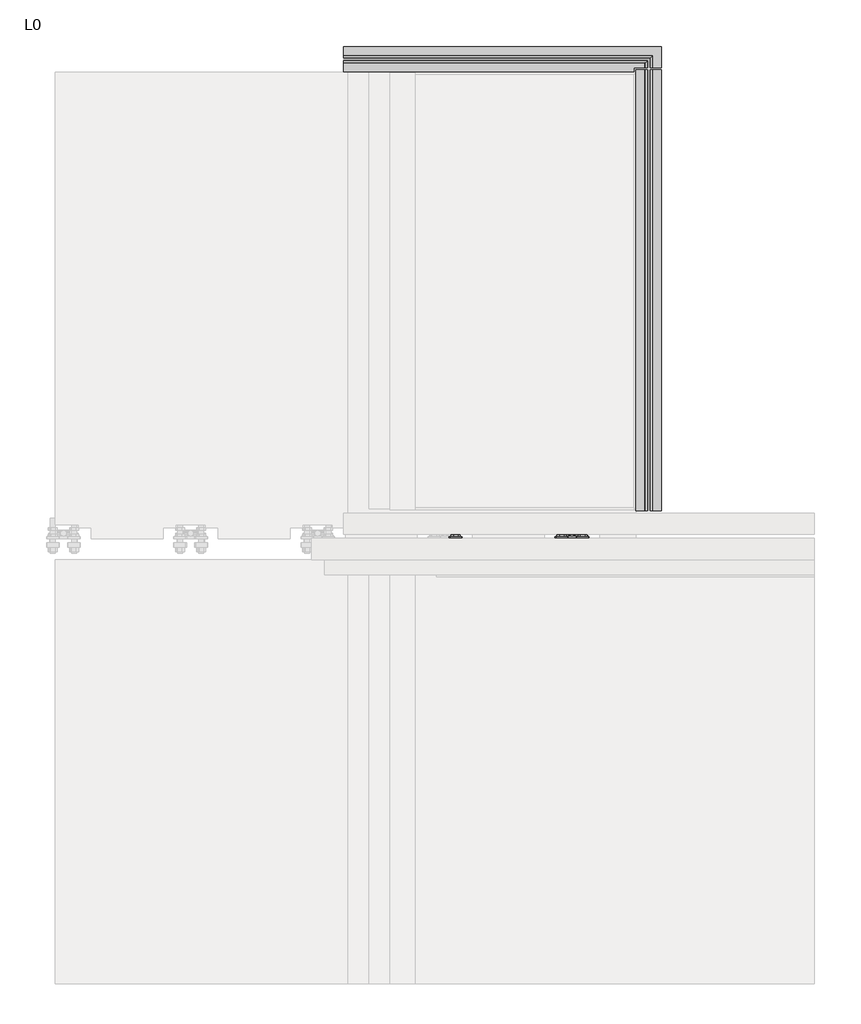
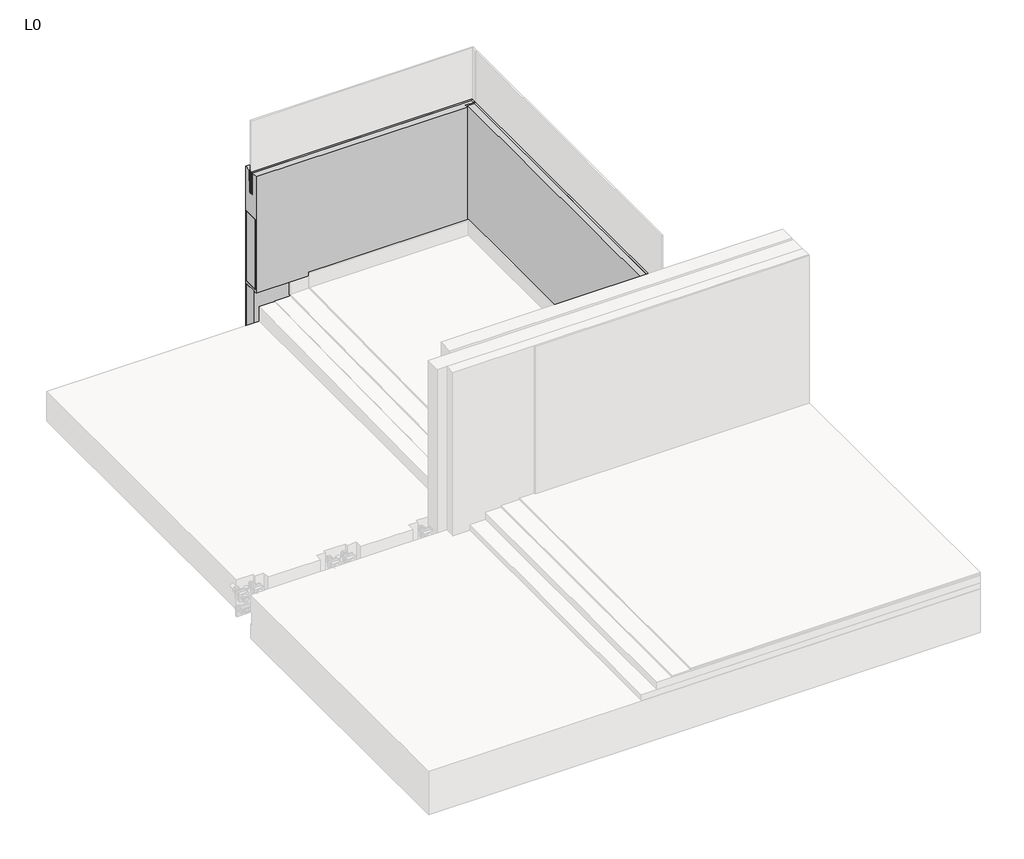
# One storey, part 2 of 2: 59 fasteners, 4 proxies.
"""IFC4 building model written with IfcOpenShell, lengths in millimetres."""

from ifc_helpers import new_model, si_unit, frame, origin, place, context, project, spatial, polyline, circle_curve, faceted_brep, transform, mapped, element, save
from ifc_brep_helpers import plane_surface, revolved_surface, advanced_brep
from components import generic_models_ea33af44, sellado_sellado_c16e03ff, fastener_4b0fadc4, fastener_2a2ea2da, fastener_e2884140, fastener_89f2e246, fastener_81d81b55, fastener_40bc8d22, fastener_24ae0f83, fastener_6d48f5d1, fastener_fd3466ae, fastener_020a80a8, rec_aem12_100_aem12_100_46347e7a, rec_aem12_140_aem12_140_dcbebcd7, rec_cpa448t17_cpa448t17_96b728d6, rec_m16_45_m16_45_58386a80, rec_m16_60_m16_60_dda11d1f, rec_m20_60_m20_60_f3bef540, rec_paa150708t14_paa150708t14_abbbcd53, rec_ph4022_ph4022_520e7247, rec_tph1250_tph1250_56b32e52, rec_p5067_rec_p5067_4c9f34e2, rec_p5068_rec_p5068_d82b0db2

model = new_model("IFC4")

# Units and contexts
model_context = context("Model", 3, world=origin())
ifc_project = project(units=[si_unit("LENGTHUNIT", "METRE", prefix="MILLI")], contexts=[model_context])

# Site, building, storey
site = spatial("IfcSite", under=ifc_project)
building = spatial("IfcBuilding", under=site)
storey = spatial("IfcBuildingStorey", under=building, Name="L0", Elevation=0.0)

# Proxies
placement = place(None, origin())
element("IfcBuildingElementProxy", 1, Name="Panel Hormigón 2 : Panel Hormigón", ObjectType="Panel Hormigón 2 : Panel Hormigón", at=placement, inside=storey, context=model_context, shape_type="SolidModel", body=[
    advanced_brep(
    [(6507.7202663, 17024.5302953, 200.0), (6507.7202663, 17104.5302953, 200.0), (6507.7202663, 17104.5302953, -490.0), (6507.7202663, 17024.5302953, -490.0), (7621.6499335, 17024.5302953, 200.0), (7621.6499335, 17024.5302953, -490.0), (7621.6499335, 17104.5302953, -490.0), (7621.6499335, 17104.5302953, 200.0), (7387.5702663, 17024.5302953, -170.0), (7427.8702663, 17024.5302953, -170.0), (7427.8702663, 17024.5302953, -320.0), (7387.5702663, 17024.5302953, -320.0), (7418.7202663, 17024.5302953, 72.0), (7396.7202663, 17024.5302953, 72.0), (7387.5702663, 17036.6051011, -170.0), (7427.8702663, 17036.6051011, -170.0), (7427.8702663, 17036.6051011, -320.0), (7387.5702663, 17036.6051011, -320.0), (7396.7202663, 17059.5302953, 72.0), (7418.7202663, 17059.5302953, 72.0)],
    [
        (0, 1),
        (1, 2),
        (2, 3),
        (3, 0),
        (4, 5),
        (5, 6),
        (6, 7),
        (7, 4),
        (0, 4),
        (7, 1),
        (6, 2),
        (5, 3),
        (8, 9),
        (9, 10),
        (10, 11),
        (11, 8),
        (12, 13, circle_curve(frame((7407.7202663, 17024.5302953, 72.0), z_axis=(0.0, 1.0, 0.0), x_axis=(1.0, 0.0, 0.0)), 11.0)),
        (13, 12, circle_curve(frame((7407.7202663, 17024.5302953, 72.0), z_axis=(0.0, 1.0, 0.0), x_axis=(1.0, 0.0, 0.0)), 11.0)),
        (14, 15),
        (15, 9),
        (8, 14),
        (16, 17),
        (17, 11),
        (10, 16),
        (17, 14),
        (15, 16),
        (18, 19, circle_curve(frame((7407.7202663, 17059.5302953, 72.0), z_axis=(0.0, -1.0, 0.0), x_axis=(1.0, 0.0, 0.0)), 11.0)),
        (19, 18, circle_curve(frame((7407.7202663, 17059.5302953, 72.0), z_axis=(0.0, -1.0, 0.0), x_axis=(1.0, 0.0, 0.0)), 11.0)),
        (18, 13),
        (12, 19),
    ],
    [
        plane_surface(frame((6507.7202663, 17010.3209466, 200.0), z_axis=(-1.0, 0.0, 0.0), x_axis=(0.0, 1.0, 0.0))),
        plane_surface(frame((7621.6499335, 17010.3209466, 200.0), z_axis=(1.0, 0.0, 0.0), x_axis=(0.0, -1.0, 0.0))),
        plane_surface(frame((6507.7202663, 17024.5302953, 200.0), z_axis=(0.0, 0.0, 1.0), x_axis=(1.0, 0.0, 0.0))),
        plane_surface(frame((6507.7202663, 17104.5302953, 200.0), z_axis=(0.0, 1.0, 0.0), x_axis=(1.0, 0.0, 0.0))),
        plane_surface(frame((6507.7202663, 17104.5302953, -490.0), z_axis=(0.0, 0.0, -1.0), x_axis=(1.0, 0.0, 0.0))),
        plane_surface(frame((6507.7202663, 17024.5302953, -490.0), z_axis=(0.0, -1.0, 0.0), x_axis=(1.0, 0.0, 0.0))),
        plane_surface(frame((7387.5702663, 17031.6051011, -170.0), z_axis=(0.0, 0.0, -1.0), x_axis=(0.0, -1.0, 0.0))),
        plane_surface(frame((7387.5702663, 17031.6051011, -320.0), z_axis=(0.0, 0.0, 1.0), x_axis=(0.0, 1.0, 0.0))),
        plane_surface(frame((7387.5702663, 17036.6051011, -170.0), z_axis=(1.0, 0.0, 0.0), x_axis=(0.0, 0.0, -1.0))),
        plane_surface(frame((7427.8702663, 17014.6051011, -170.0), z_axis=(-1.0, 0.0, 0.0), x_axis=(0.0, 0.0, -1.0))),
        plane_surface(frame((7427.8702663, 17036.6051011, -170.0), z_axis=(0.0, -1.0, 0.0), x_axis=(0.0, 0.0, -1.0))),
        plane_surface(frame((7418.7202663, 17059.5302953, 72.0), z_axis=(0.0, -1.0, 0.0), x_axis=(0.0, 0.0, -1.0))),
        revolved_surface(polyline([(7418.7202663, 17024.5302953, 72.0), (7418.7202663, 17059.5302953, 72.0)]), (7407.7202663, 17059.5302953, 72.0), (0.0, -1.0, 0.0)),
    ],
    [
        (0, [[1, 2, 3, 4]]),
        (1, [[5, 6, 7, 8]]),
        (2, [[-1, 9, -8, 10]]),
        (3, [[-2, -10, -7, 11]]),
        (4, [[-3, -11, -6, 12]]),
        (5, [[-4, -12, -5, -9], [13, 14, 15, 16], [17, 18]]),
        (6, [[19, 20, -13, 21]]),
        (7, [[22, 23, -15, 24]]),
        (8, [[25, -21, -16, -23]]),
        (9, [[26, -24, -14, -20]]),
        (10, [[-19, -25, -22, -26]]),
        (11, [[27, 28]]),
        (12, [[-27, 29, -17, 30]]),
        (12, [[-28, -30, -18, -29]]),
    ],
),
    faceted_brep([(6507.7202663, 17104.5302953, 220.0), (6507.7202663, 17004.5302953, 220.0), (6507.7202663, 17004.5302953, 700.5448581), (6507.7202663, 17104.5302953, 700.5448581), (7621.6499335, 17104.5302953, 220.0), (7621.6499335, 17104.5302953, 700.5448581), (7621.6499335, 17004.5302953, 700.5448581), (7621.6499335, 17004.5302953, 220.0)], [[[0, 1, 2, 3]], [[4, 5, 6, 7]], [[1, 0, 4, 7]], [[2, 1, 7, 6]], [[3, 2, 6, 5]], [[0, 3, 5, 4]]]),
    advanced_brep(
    [(8007.7202663, 17114.5302953, 1000.0), (6507.7202663, 17114.5302953, 1000.0), (6507.7202663, 17072.0302953, 1000.0), (7965.2202663, 17072.0302953, 1000.0), (7965.2202663, 17014.5302953, 1000.0), (8007.7202663, 17014.5302953, 1000.0), (6507.7202663, 17037.0302953, 1000.0), (6507.7202663, 16994.5302953, 1000.0), (7877.7202663, 16994.5302953, 1000.0), (7877.7202663, 17014.5302953, 1000.0), (7930.2202663, 17014.5302953, 1000.0), (7930.2202663, 17037.0302953, 1000.0), (6507.7202663, 17114.5302953, -500.0), (8007.7202663, 17114.5302953, -500.0), (8007.7202663, 17014.5302953, -500.0), (6507.7202663, 17014.5302953, -500.0), (6507.7202663, 17014.5302953, 200.0), (6507.7202663, 16994.5302953, 200.0), (6507.7202663, 17039.5302953, 850.0), (6507.7202663, 17069.5302953, 850.0), (6507.7202663, 17104.5302953, 200.0), (6507.7202663, 17024.5302953, 200.0), (6507.7202663, 17024.5302953, -490.0), (6507.7202663, 17104.5302953, -490.0), (6507.7202663, 17004.5302953, 220.0), (6507.7202663, 17104.5302953, 220.0), (6507.7202663, 17104.5302953, 700.5448581), (6507.7202663, 17004.5302953, 700.5448581), (7877.7202663, 16994.5302953, 200.0), (7877.7202663, 17014.5302953, 200.0), (7962.7202663, 17014.5302953, 850.0), (7932.7202663, 17014.5302953, 850.0), (7387.5702663, 17014.5302953, -170.0), (7427.8702663, 17014.5302953, -170.0), (7427.8702663, 17014.5302953, -320.0), (7387.5702663, 17014.5302953, -320.0), (7418.7202663, 17014.5302953, 72.0), (7396.7202663, 17014.5302953, 72.0), (7387.5702663, 17024.5302953, -170.0), (7427.8702663, 17024.5302953, -170.0), (7427.8702663, 17024.5302953, -320.0), (7387.5702663, 17024.5302953, -320.0), (7396.7202663, 17024.5302953, 72.0), (7418.7202663, 17024.5302953, 72.0), (7962.7202663, 17069.5302953, 850.0), (7932.7202663, 17039.5302953, 850.0), (7621.6499335, 17024.5302953, 200.0), (7621.6499335, 17104.5302953, 200.0), (7621.6499335, 17104.5302953, -490.0), (7621.6499335, 17024.5302953, -490.0), (7621.6499335, 17104.5302953, 220.0), (7621.6499335, 17004.5302953, 220.0), (7621.6499335, 17004.5302953, 700.5448581), (7621.6499335, 17104.5302953, 700.5448581)],
    [
        (0, 1),
        (1, 2),
        (2, 3),
        (3, 4),
        (4, 5),
        (5, 0),
        (6, 7),
        (7, 8),
        (8, 9),
        (9, 10),
        (10, 11),
        (11, 6),
        (12, 13),
        (13, 14),
        (14, 15),
        (15, 12),
        (1, 12),
        (15, 16),
        (16, 17),
        (17, 7),
        (6, 18),
        (18, 19),
        (19, 2),
        (20, 21),
        (21, 22),
        (22, 23),
        (23, 20),
        (24, 25),
        (25, 26),
        (26, 27),
        (27, 24),
        (17, 28),
        (28, 8),
        (13, 0),
        (5, 14),
        (16, 29),
        (29, 28),
        (4, 30),
        (30, 31),
        (31, 10),
        (9, 29),
        (32, 33),
        (33, 34),
        (34, 35),
        (35, 32),
        (36, 37, circle_curve(frame((7407.7202663, 17014.5302953, 72.0), z_axis=(0.0, 1.0, 0.0), x_axis=(1.0, 0.0, 0.0)), 11.0)),
        (37, 36, circle_curve(frame((7407.7202663, 17014.5302953, 72.0), z_axis=(0.0, 1.0, 0.0), x_axis=(1.0, 0.0, 0.0)), 11.0)),
        (32, 38),
        (38, 39),
        (39, 33),
        (34, 40),
        (40, 41),
        (41, 35),
        (41, 38),
        (39, 40),
        (42, 37),
        (36, 43),
        (43, 42, circle_curve(frame((7407.7202663, 17024.5302953, 72.0), z_axis=(0.0, 1.0, 0.0), x_axis=(1.0, 0.0, 0.0)), 11.0)),
        (42, 43, circle_curve(frame((7407.7202663, 17024.5302953, 72.0), z_axis=(0.0, 1.0, 0.0), x_axis=(1.0, 0.0, 0.0)), 11.0)),
        (3, 44),
        (44, 30),
        (31, 45),
        (45, 11),
        (18, 45),
        (44, 19),
        (46, 47),
        (47, 48),
        (48, 49),
        (49, 46),
        (50, 51),
        (51, 52),
        (52, 53),
        (53, 50),
        (20, 47),
        (46, 21),
        (23, 48),
        (22, 49),
        (24, 51),
        (50, 25),
        (27, 52),
        (26, 53),
    ],
    [
        plane_surface(frame((6507.7202663, 17114.5302953, 1000.0), z_axis=(0.0, 0.0, 1.0), x_axis=(0.0, -1.0, 0.0))),
        plane_surface(frame((6507.7202663, 17114.5302953, -500.0), z_axis=(0.0, 0.0, -1.0), x_axis=(0.0, 1.0, 0.0))),
        plane_surface(frame((6507.7202663, 17114.5302953, 1000.0), z_axis=(-1.0, 0.0, 0.0), x_axis=(0.0, 0.0, -1.0))),
        plane_surface(frame((6507.7202663, 16994.5302953, 1000.0), z_axis=(0.0, -1.0, 0.0), x_axis=(0.0, 0.0, -1.0))),
        plane_surface(frame((8007.7202663, 16994.5302953, 1000.0), z_axis=(1.0, 0.0, 0.0), x_axis=(0.0, 0.0, -1.0))),
        plane_surface(frame((8007.7202663, 17114.5302953, 1000.0), z_axis=(0.0, 1.0, 0.0), x_axis=(0.0, 0.0, -1.0))),
        plane_surface(frame((6507.7202663, 16994.5302953, 200.0), z_axis=(0.0, 0.0, -1.0), x_axis=(1.0, 0.0, 0.0))),
        plane_surface(frame((6507.7202663, 17014.5302953, 200.0), z_axis=(0.0, -1.0, 0.0), x_axis=(1.0, 0.0, 0.0))),
        plane_surface(frame((7387.5702663, 17031.6051011, -170.0), z_axis=(0.0, 0.0, -1.0), x_axis=(0.0, -1.0, 0.0))),
        plane_surface(frame((7387.5702663, 17031.6051011, -320.0), z_axis=(0.0, 0.0, 1.0), x_axis=(0.0, 1.0, 0.0))),
        plane_surface(frame((7387.5702663, 17036.6051011, -170.0), z_axis=(1.0, 0.0, 0.0), x_axis=(0.0, 0.0, -1.0))),
        plane_surface(frame((7427.8702663, 17014.6051011, -170.0), z_axis=(-1.0, 0.0, 0.0), x_axis=(0.0, 0.0, -1.0))),
        revolved_surface(polyline([(7418.7202663, 17014.5302953, 72.0), (7418.7202663, 17024.5302953, 72.0)]), (7407.7202663, 17059.5302953, 72.0), (0.0, -1.0, 0.0)),
        plane_surface(frame((7962.7202663, 16994.5302953, 850.0), z_axis=(-0.9998611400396, 0.0, 0.016664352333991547), x_axis=(0.0, 1.0, 0.0))),
        plane_surface(frame((7930.2202663, 16994.5302953, 1000.0), z_axis=(0.9998611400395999, 0.0, 0.016664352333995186), x_axis=(0.0, 1.0, 0.0))),
        plane_surface(frame((7932.7202663, 16994.5302953, 850.0), z_axis=(0.0, 0.0, 1.0), x_axis=(0.0, 1.0, 0.0))),
        plane_surface(frame((7962.7202663, 17069.5302953, 850.0), z_axis=(0.0, -0.9998611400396, 0.01666435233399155), x_axis=(-1.0, 0.0, 0.0))),
        plane_surface(frame((7930.2202663, 17037.0302953, 1000.0), z_axis=(0.0, 0.9998611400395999, 0.01666435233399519), x_axis=(-1.0, 0.0, 0.0))),
        plane_surface(frame((7877.7202663, 17014.5302953, 1000.0), z_axis=(1.0, 0.0, 0.0), x_axis=(0.0, 0.0, -1.0))),
        plane_surface(frame((7621.6499335, 17010.3209466, 200.0), z_axis=(-1.0, 0.0, 0.0), x_axis=(0.0, -1.0, 0.0))),
        plane_surface(frame((6507.7202663, 17024.5302953, 200.0), z_axis=(0.0, 0.0, -1.0), x_axis=(1.0, 0.0, 0.0))),
        plane_surface(frame((6507.7202663, 17104.5302953, 200.0), z_axis=(0.0, -1.0, 0.0), x_axis=(1.0, 0.0, 0.0))),
        plane_surface(frame((6507.7202663, 17104.5302953, -490.0), z_axis=(0.0, 0.0, 1.0), x_axis=(1.0, 0.0, 0.0))),
        plane_surface(frame((6507.7202663, 17024.5302953, -490.0), z_axis=(0.0, 1.0, 0.0), x_axis=(1.0, 0.0, 0.0))),
        plane_surface(frame((6507.7202663, 17104.5302953, 220.0), z_axis=(0.0, 0.0, 1.0), x_axis=(1.0, 0.0, 0.0))),
        plane_surface(frame((6507.7202663, 17004.5302953, 220.0), z_axis=(0.0, 1.0, 0.0), x_axis=(1.0, 0.0, 0.0))),
        plane_surface(frame((6507.7202663, 17004.5302953, 700.5448581), z_axis=(0.0, 0.0, -1.0), x_axis=(1.0, 0.0, 0.0))),
        plane_surface(frame((6507.7202663, 17104.5302953, 700.5448581), z_axis=(0.0, -1.0, 0.0), x_axis=(1.0, 0.0, 0.0))),
    ],
    [
        (0, [[1, 2, 3, 4, 5, 6]]),
        (0, [[7, 8, 9, 10, 11, 12]]),
        (1, [[13, 14, 15, 16]]),
        (2, [[17, -16, 18, 19, 20, -7, 21, 22, 23, -2], [24, 25, 26, 27], [28, 29, 30, 31]]),
        (3, [[-20, 32, 33, -8]]),
        (4, [[34, -6, 35, -14]]),
        (5, [[-1, -34, -13, -17]]),
        (6, [[-19, 36, 37, -32]]),
        (7, [[-18, -15, -35, -5, 38, 39, 40, -10, 41, -36], [42, 43, 44, 45], [46, 47]]),
        (8, [[-42, 48, 49, 50]]),
        (9, [[-44, 51, 52, 53]]),
        (10, [[-45, -53, 54, -48]]),
        (11, [[-43, -50, 55, -51]]),
        (12, [[56, -46, 57, 58]]),
        (12, [[-56, 59, -57, -47]]),
        (13, [[-4, 60, 61, -38]]),
        (14, [[-11, -40, 62, 63]]),
        (15, [[-22, 64, -62, -39, -61, 65]]),
        (16, [[-3, -23, -65, -60]]),
        (17, [[-12, -63, -64, -21]]),
        (18, [[-9, -33, -37, -41]]),
        (19, [[66, 67, 68, 69]]),
        (19, [[70, 71, 72, 73]]),
        (20, [[-24, 74, -66, 75]]),
        (21, [[-27, 76, -67, -74]]),
        (22, [[-26, 77, -68, -76]]),
        (23, [[-25, -75, -69, -77], [-49, -54, -52, -55], [-58, -59]]),
        (24, [[-28, 78, -70, 79]]),
        (25, [[-31, 80, -71, -78]]),
        (26, [[-30, 81, -72, -80]]),
        (27, [[-29, -79, -73, -81]]),
    ],
),
])
element("IfcBuildingElementProxy", 2, Name="Panel Hormigón : Panel Hormigón", ObjectType="Panel Hormigón : Panel Hormigón", at=placement, inside=storey, context=model_context, shape_type="AdvancedBrep", body=[
    advanced_brep(
    [(7887.7202663, 17004.5302953, 1000.0), (7887.7202663, 14924.5302953, 1000.0), (7930.2202663, 14924.5302953, 1000.0), (7930.2202663, 17004.5302953, 1000.0), (8007.7202663, 17004.5302953, 1000.0), (7965.2202663, 17004.5302953, 1000.0), (7965.2202663, 14924.5302953, 1000.0), (8007.7202663, 14924.5302953, 1000.0), (8007.7202663, 14924.5302953, -500.0), (7907.7202663, 14924.5302953, -500.0), (7907.7202663, 17004.5302953, -500.0), (8007.7202663, 17004.5302953, -500.0), (7932.7202663, 17004.5302953, 850.0), (7962.7202663, 17004.5302953, 850.0), (7907.7202663, 17004.5302953, 200.0), (7887.7202663, 17004.5302953, 200.0), (7887.7202663, 14924.5302953, 200.0), (7907.7202663, 14924.5302953, 200.0), (7962.7202663, 14924.5302953, 850.0), (7932.7202663, 14924.5302953, 850.0), (7907.7202663, 16624.6802953, -170.0), (7907.7202663, 16584.3802953, -170.0), (7907.7202663, 16584.3802953, -320.0), (7907.7202663, 16624.6802953, -320.0), (7907.7202663, 15344.5302953, -170.0), (7907.7202663, 15304.2302953, -170.0), (7907.7202663, 15304.2302953, -320.0), (7907.7202663, 15344.5302953, -320.0), (7907.7202663, 16593.5302953, 72.0), (7907.7202663, 16615.5302953, 72.0), (7907.7202663, 15313.3802953, 72.0), (7907.7202663, 15335.3802953, 72.0), (7929.7950721, 16624.6802953, -170.0), (7929.7950721, 16584.3802953, -170.0), (7929.7950721, 16624.6802953, -320.0), (7929.7950721, 16584.3802953, -320.0), (7929.7950721, 15344.5302953, -170.0), (7929.7950721, 15304.2302953, -170.0), (7929.7950721, 15344.5302953, -320.0), (7929.7950721, 15304.2302953, -320.0), (7952.7202663, 16615.5302953, 72.0), (7952.7202663, 16593.5302953, 72.0), (7952.7202663, 15335.3802953, 72.0), (7952.7202663, 15313.3802953, 72.0)],
    [
        (0, 1),
        (1, 2),
        (2, 3),
        (3, 0),
        (4, 5),
        (5, 6),
        (6, 7),
        (7, 4),
        (8, 9),
        (9, 10),
        (10, 11),
        (11, 8),
        (3, 12),
        (12, 13),
        (13, 5),
        (4, 11),
        (10, 14),
        (14, 15),
        (15, 0),
        (15, 16),
        (16, 1),
        (16, 17),
        (17, 9),
        (8, 7),
        (6, 18),
        (18, 19),
        (19, 2),
        (14, 17),
        (20, 21),
        (21, 22),
        (22, 23),
        (23, 20),
        (24, 25),
        (25, 26),
        (26, 27),
        (27, 24),
        (28, 29, circle_curve(frame((7907.7202663, 16604.5302953, 72.0), z_axis=(1.0, 0.0, 0.0), x_axis=(0.0, -1.0, 0.0)), 11.0)),
        (29, 28, circle_curve(frame((7907.7202663, 16604.5302953, 72.0), z_axis=(1.0, 0.0, 0.0), x_axis=(0.0, -1.0, 0.0)), 11.0)),
        (30, 31, circle_curve(frame((7907.7202663, 15324.3802953, 72.0), z_axis=(1.0, 0.0, 0.0), x_axis=(0.0, -1.0, 0.0)), 11.0)),
        (31, 30, circle_curve(frame((7907.7202663, 15324.3802953, 72.0), z_axis=(1.0, 0.0, 0.0), x_axis=(0.0, -1.0, 0.0)), 11.0)),
        (12, 19),
        (18, 13),
        (32, 33),
        (33, 21),
        (20, 32),
        (34, 23),
        (22, 35),
        (35, 34),
        (34, 32),
        (33, 35),
        (36, 37),
        (37, 25),
        (24, 36),
        (38, 27),
        (26, 39),
        (39, 38),
        (38, 36),
        (37, 39),
        (40, 41, circle_curve(frame((7952.7202663, 16604.5302953, 72.0), z_axis=(-1.0, 0.0, 0.0), x_axis=(0.0, -1.0, 0.0)), 11.0)),
        (41, 40, circle_curve(frame((7952.7202663, 16604.5302953, 72.0), z_axis=(-1.0, 0.0, 0.0), x_axis=(0.0, -1.0, 0.0)), 11.0)),
        (40, 29),
        (28, 41),
        (42, 43, circle_curve(frame((7952.7202663, 15324.3802953, 72.0), z_axis=(-1.0, 0.0, 0.0), x_axis=(0.0, -1.0, 0.0)), 11.0)),
        (43, 42, circle_curve(frame((7952.7202663, 15324.3802953, 72.0), z_axis=(-1.0, 0.0, 0.0), x_axis=(0.0, -1.0, 0.0)), 11.0)),
        (42, 31),
        (30, 43),
    ],
    [
        plane_surface(frame((8007.7202663, 17004.5302953, 1000.0), z_axis=(0.0, 0.0, 1.0), x_axis=(-1.0, 0.0, 0.0))),
        plane_surface(frame((8007.7202663, 17004.5302953, -500.0), z_axis=(0.0, 0.0, -1.0), x_axis=(1.0, 0.0, 0.0))),
        plane_surface(frame((8007.7202663, 17004.5302953, 1000.0), z_axis=(0.0, 1.0, 0.0), x_axis=(0.0, 0.0, -1.0))),
        plane_surface(frame((7887.7202663, 17004.5302953, 1000.0), z_axis=(-1.0, 0.0, 0.0), x_axis=(0.0, 0.0, -1.0))),
        plane_surface(frame((7887.7202663, 14924.5302953, 1000.0), z_axis=(0.0, -1.0, 0.0), x_axis=(0.0, 0.0, -1.0))),
        plane_surface(frame((8007.7202663, 14924.5302953, 1000.0), z_axis=(1.0, 0.0, 0.0), x_axis=(0.0, 0.0, -1.0))),
        plane_surface(frame((7887.7202663, 17004.5302953, 200.0), z_axis=(0.0, 0.0, -1.0), x_axis=(0.0, -1.0, 0.0))),
        plane_surface(frame((7907.7202663, 17004.5302953, 200.0), z_axis=(-1.0, 0.0, 0.0), x_axis=(0.0, -1.0, 0.0))),
        plane_surface(frame((7962.7202663, 17004.5302953, 850.0), z_axis=(0.0, 0.0, 1.0), x_axis=(0.0, -1.0, 0.0))),
        plane_surface(frame((7932.7202663, 17004.5302953, 850.0), z_axis=(0.9998611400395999, 0.0, 0.016664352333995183), x_axis=(0.0, -1.0, 0.0))),
        plane_surface(frame((7965.2202663, 17004.5302953, 1000.0), z_axis=(-0.9998611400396, 0.0, 0.016664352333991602), x_axis=(0.0, -1.0, 0.0))),
        plane_surface(frame((7924.7950721, 16624.6802953, -170.0), z_axis=(0.0, 0.0, -1.0), x_axis=(-1.0, 0.0, 0.0))),
        plane_surface(frame((7924.7950721, 16624.6802953, -320.0), z_axis=(0.0, 0.0, 1.0), x_axis=(1.0, 0.0, 0.0))),
        plane_surface(frame((7929.7950721, 16624.6802953, -170.0), z_axis=(0.0, -1.0, 0.0), x_axis=(0.0, 0.0, -1.0))),
        plane_surface(frame((7907.7950721, 16584.3802953, -170.0), z_axis=(0.0, 1.0, 0.0), x_axis=(0.0, 0.0, -1.0))),
        plane_surface(frame((7929.7950721, 16584.3802953, -170.0), z_axis=(-1.0, 0.0, 0.0), x_axis=(0.0, 0.0, -1.0))),
        plane_surface(frame((7924.7950721, 15344.5302953, -170.0), z_axis=(0.0, 0.0, -1.0), x_axis=(-1.0, 0.0, 0.0))),
        plane_surface(frame((7924.7950721, 15344.5302953, -320.0), z_axis=(0.0, 0.0, 1.0), x_axis=(1.0, 0.0, 0.0))),
        plane_surface(frame((7929.7950721, 15344.5302953, -170.0), z_axis=(0.0, -1.0, 0.0), x_axis=(0.0, 0.0, -1.0))),
        plane_surface(frame((7907.7950721, 15304.2302953, -170.0), z_axis=(0.0, 1.0, 0.0), x_axis=(0.0, 0.0, -1.0))),
        plane_surface(frame((7929.7950721, 15304.2302953, -170.0), z_axis=(-1.0, 0.0, 0.0), x_axis=(0.0, 0.0, -1.0))),
        plane_surface(frame((7952.7202663, 16593.5302953, 72.0), z_axis=(-1.0, 0.0, 0.0), x_axis=(0.0, 0.0, -1.0))),
        revolved_surface(polyline([(7907.7202663, 16593.5302953, 72.0), (7952.7202663, 16593.5302953, 72.0)]), (7952.7202663, 16604.5302953, 72.0), (-1.0, 0.0, 0.0)),
        plane_surface(frame((7952.7202663, 15313.3802953, 72.0), z_axis=(-1.0, 0.0, 0.0), x_axis=(0.0, 0.0, -1.0))),
        revolved_surface(polyline([(7907.7202663, 15313.3802953, 72.0), (7952.7202663, 15313.3802953, 72.0)]), (7952.7202663, 15324.3802953, 72.0), (-1.0, 0.0, 0.0)),
    ],
    [
        (0, [[1, 2, 3, 4]]),
        (0, [[5, 6, 7, 8]]),
        (1, [[9, 10, 11, 12]]),
        (2, [[-4, 13, 14, 15, -5, 16, -11, 17, 18, 19]]),
        (3, [[-1, -19, 20, 21]]),
        (4, [[-2, -21, 22, 23, -9, 24, -7, 25, 26, 27]]),
        (5, [[-24, -12, -16, -8]]),
        (6, [[-20, -18, 28, -22]]),
        (7, [[-10, -23, -28, -17], [29, 30, 31, 32], [33, 34, 35, 36], [37, 38], [39, 40]]),
        (8, [[-14, 41, -26, 42]]),
        (9, [[-3, -27, -41, -13]]),
        (10, [[-6, -15, -42, -25]]),
        (11, [[43, 44, -29, 45]]),
        (12, [[46, -31, 47, 48]]),
        (13, [[-45, -32, -46, 49]]),
        (14, [[-44, 50, -47, -30]]),
        (15, [[-43, -49, -48, -50]]),
        (16, [[51, 52, -33, 53]]),
        (17, [[54, -35, 55, 56]]),
        (18, [[-53, -36, -54, 57]]),
        (19, [[-52, 58, -55, -34]]),
        (20, [[-51, -57, -56, -58]]),
        (21, [[59, 60]]),
        (22, [[-59, 61, -37, 62]]),
        (22, [[-60, -62, -38, -61]]),
        (23, [[63, 64]]),
        (24, [[-63, 65, -39, 66]]),
        (24, [[-64, -66, -40, -65]]),
    ],
),
])
generic_models_shape = generic_models_ea33af44(model_context)
element("IfcBuildingElementProxy", 3, Name="Calzo termoplastico : Calzo termoplastico", ObjectType="Calzo termoplastico : Calzo termoplastico", at=placement, inside=storey, context=model_context, shape_type="MappedRepresentation", body=[
    mapped(generic_models_shape, transform((0.0, 0.0, 0.0), x_axis=(1.0, 0.0, 0.0), y_axis=(0.0, 1.0, 0.0), z_axis=(0.0, 0.0, 1.0))),
])
sellado_sellado_shape = sellado_sellado_c16e03ff(model_context)
element("IfcBuildingElementProxy", 4, Name="Sellado : Sellado", ObjectType="Sellado : Sellado", at=placement, inside=storey, context=model_context, shape_type="MappedRepresentation", body=[
    mapped(sellado_sellado_shape, transform((0.0, 0.0, 0.0), x_axis=(1.0, 0.0, 0.0), y_axis=(0.0, 1.0, 0.0), z_axis=(0.0, 0.0, 1.0))),
])

# Fasteners
fastener_shape = fastener_4b0fadc4(model_context)
element("IfcFastener", 5, ObjectType="REC-PARA2501208RT : PARA2501208RT", at=placement, inside=storey, context=model_context, shape_type="MappedRepresentation", body=[
    mapped(fastener_shape, transform((7407.7202663, 17014.5302953, 0.0), x_axis=(1.0, 0.0, 0.0), y_axis=(0.0, 1.0, 0.0), z_axis=(0.0, 0.0, 1.0))),
])
element("IfcFastener", 6, ObjectType="REC-PARA2501208RT : PARA2501208RT", at=placement, inside=storey, context=model_context, shape_type="MappedRepresentation", body=[
    mapped(fastener_shape, transform((7907.7202663, 16604.5302953, 0.0), x_axis=(0.0, -1.0, 0.0), y_axis=(1.0, 0.0, 0.0), z_axis=(0.0, 0.0, 1.0))),
])
element("IfcFastener", 7, ObjectType="REC-PARA2501208RT : PARA2501208RT", at=placement, inside=storey, context=model_context, shape_type="MappedRepresentation", body=[
    mapped(fastener_shape, transform((7907.7202663, 15324.3802953, 0.0), x_axis=(0.0, -1.0, 0.0), y_axis=(1.0, 0.0, 0.0), z_axis=(0.0, 0.0, 1.0))),
])
fastener_2_shape = fastener_2a2ea2da(model_context)
element("IfcFastener", 8, ObjectType="REC-HBP M16-75 EV : HBP M16-75 EV", at=placement, inside=storey, context=model_context, shape_type="MappedRepresentation", body=[
    mapped(fastener_2_shape, transform((7407.7202663, 17014.5302953, 72.0), x_axis=(1.0, 0.0, 0.0), y_axis=(0.0, 0.0, 1.0), z_axis=(0.0, -1.0, 0.0))),
])
element("IfcFastener", 9, ObjectType="REC-HBP M16-75 EV : HBP M16-75 EV", at=placement, inside=storey, context=model_context, shape_type="MappedRepresentation", body=[
    mapped(fastener_2_shape, transform((7907.7202663, 16604.5302953, 72.0), x_axis=(0.0, -1.0, 0.0), y_axis=(0.0, 0.0, 1.0), z_axis=(-1.0, 0.0, 0.0))),
])
element("IfcFastener", 10, ObjectType="REC-HBP M16-75 EV : HBP M16-75 EV", at=placement, inside=storey, context=model_context, shape_type="MappedRepresentation", body=[
    mapped(fastener_2_shape, transform((7907.7202663, 15324.3802953, 72.0), x_axis=(0.0, -1.0, 0.0), y_axis=(0.0, 0.0, 1.0), z_axis=(-1.0, 0.0, 0.0))),
])
fastener_3_shape = fastener_e2884140(model_context)
element("IfcFastener", 11, ObjectType="GEN-T-M12 : T-M12", at=placement, inside=storey, context=model_context, shape_type="MappedRepresentation", body=[
    mapped(fastener_3_shape, transform((7407.7202663, 17004.1302977, -245.0), x_axis=(-1.0, 0.0, 0.0), y_axis=(0.0, 0.0, -1.0), z_axis=(0.0, -1.0, 0.0))),
])
element("IfcFastener", 12, ObjectType="GEN-T-M12 : T-M12", at=placement, inside=storey, context=model_context, shape_type="MappedRepresentation", body=[
    mapped(fastener_3_shape, transform((7897.3202687, 16604.5302953, -245.0), x_axis=(0.0, 1.0, 0.0), y_axis=(0.0, 0.0, -1.0), z_axis=(-1.0, 0.0, 0.0))),
])
element("IfcFastener", 13, ObjectType="GEN-T-M12 : T-M12", at=placement, inside=storey, context=model_context, shape_type="MappedRepresentation", body=[
    mapped(fastener_3_shape, transform((7897.3202687, 15324.3802953, -245.0), x_axis=(0.0, 1.0, 0.0), y_axis=(0.0, 0.0, -1.0), z_axis=(-1.0, 0.0, 0.0))),
])
fastener_4_shape = fastener_89f2e246(model_context)
element("IfcFastener", 14, ObjectType="GEN-A-M12 : A-M12", at=placement, inside=storey, context=model_context, shape_type="MappedRepresentation", body=[
    mapped(fastener_4_shape, transform((7407.7202663, 17006.5302953, -245.0), x_axis=(-1.0, 0.0, 0.0), y_axis=(0.0, 0.0, -1.0), z_axis=(0.0, -1.0, 0.0))),
])
element("IfcFastener", 15, ObjectType="GEN-A-M12 : A-M12", at=placement, inside=storey, context=model_context, shape_type="MappedRepresentation", body=[
    mapped(fastener_4_shape, transform((7899.7202663, 16604.5302953, -245.0), x_axis=(0.0, 1.0, 0.0), y_axis=(0.0, 0.0, -1.0), z_axis=(-1.0, 0.0, 0.0))),
])
element("IfcFastener", 16, ObjectType="GEN-A-M12 : A-M12", at=placement, inside=storey, context=model_context, shape_type="MappedRepresentation", body=[
    mapped(fastener_4_shape, transform((7899.7202663, 15324.3802953, -245.0), x_axis=(0.0, 1.0, 0.0), y_axis=(0.0, 0.0, -1.0), z_axis=(-1.0, 0.0, 0.0))),
])
fastener_5_shape = fastener_81d81b55(model_context)
element("IfcFastener", 17, ObjectType="REC-A-M16 : A-M16", at=placement, inside=storey, context=model_context, shape_type="MappedRepresentation", body=[
    mapped(fastener_5_shape, transform((7407.7202663, 16999.9052953, 72.0), x_axis=(1.0, 0.0, 0.0), y_axis=(0.0, 0.0, 1.0), z_axis=(0.0, -1.0, 0.0))),
])
element("IfcFastener", 18, ObjectType="REC-A-M16 : A-M16", at=placement, inside=storey, context=model_context, shape_type="MappedRepresentation", body=[
    mapped(fastener_5_shape, transform((7893.0952663, 16604.5302953, 72.0), x_axis=(0.0, -1.0, 0.0), y_axis=(0.0, 0.0, 1.0), z_axis=(-1.0, 0.0, 0.0))),
])
element("IfcFastener", 19, ObjectType="REC-A-M16 : A-M16", at=placement, inside=storey, context=model_context, shape_type="MappedRepresentation", body=[
    mapped(fastener_5_shape, transform((7893.0952663, 15324.3802953, 72.0), x_axis=(0.0, -1.0, 0.0), y_axis=(0.0, 0.0, 1.0), z_axis=(-1.0, 0.0, 0.0))),
])
fastener_6_shape = fastener_40bc8d22(model_context)
element("IfcFastener", 20, ObjectType="REC_FBAIGCEQ : FBAIGCEQ", at=placement, inside=storey, context=model_context, shape_type="MappedRepresentation", body=[
    mapped(fastener_6_shape, transform((7585.8002663, 14794.5302953, -200.0), x_axis=(-1.0, 0.0, 0.0), y_axis=(0.0, 0.0, 1.0), z_axis=(0.0, 1.0, 0.0))),
])
fastener_7_shape = fastener_24ae0f83(model_context)
element("IfcFastener", 21, ObjectType="REC-T-M20 : T_M20", at=placement, inside=storey, context=model_context, shape_type="MappedRepresentation", body=[
    mapped(fastener_7_shape, transform((7640.8002663, 14804.5302953, -160.0), x_axis=(-1.0, 0.0, 0.0), y_axis=(0.0, 0.0, 1.0), z_axis=(0.0, 1.0, 0.0))),
])
element("IfcFastener", 22, ObjectType="REC-T-M20 : T_M20", at=placement, inside=storey, context=model_context, shape_type="MappedRepresentation", body=[
    mapped(fastener_7_shape, transform((7530.8002663, 14804.5302953, -160.0), x_axis=(-1.0, 0.0, 0.0), y_axis=(0.0, 0.0, 1.0), z_axis=(0.0, 1.0, 0.0))),
])
fastener_8_shape = fastener_6d48f5d1(model_context)
element("IfcFastener", 23, ObjectType="REC_TCA_M24 8.8 : REC_TCA_M24 8.8", at=placement, inside=storey, context=model_context, shape_type="MappedRepresentation", body=[
    mapped(fastener_8_shape, transform((7035.7602663, 14754.5302953, -50.0), x_axis=(1.0, 0.0, 0.0), y_axis=(0.0, 0.0, 1.0), z_axis=(0.0, -1.0, 0.0))),
])
element("IfcFastener", 24, ObjectType="REC_TCA_M24 8.8 : REC_TCA_M24 8.8", at=placement, inside=storey, context=model_context, shape_type="MappedRepresentation", body=[
    mapped(fastener_8_shape, transform((7535.8002663, 14754.5302953, -50.0), x_axis=(1.0, 0.0, 0.0), y_axis=(0.0, 0.0, 1.0), z_axis=(0.0, -1.0, 0.0))),
])
element("IfcFastener", 25, ObjectType="REC_TCA_M24 8.8 : REC_TCA_M24 8.8", at=placement, inside=storey, context=model_context, shape_type="MappedRepresentation", body=[
    mapped(fastener_8_shape, transform((7635.8002663, 14754.5302953, -50.0), x_axis=(1.0, 0.0, 0.0), y_axis=(0.0, 0.0, 1.0), z_axis=(0.0, -1.0, 0.0))),
])
fastener_9_shape = fastener_fd3466ae(model_context)
element("IfcFastener", 26, ObjectType="REC_TCA_M24 : REC_TCA_M24", at=placement, inside=storey, context=model_context, shape_type="MappedRepresentation", body=[
    mapped(fastener_9_shape, transform((7035.7602663, 14832.4986868, -50.0), x_axis=(1.0, 0.0, 0.0), y_axis=(0.0, 0.0, -1.0), z_axis=(0.0, 1.0, 0.0))),
])
element("IfcFastener", 27, ObjectType="REC_TCA_M24 : REC_TCA_M24", at=placement, inside=storey, context=model_context, shape_type="MappedRepresentation", body=[
    mapped(fastener_9_shape, transform((7035.7602663, 14802.5302953, -50.0), x_axis=(0.4999999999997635, 0.0, 0.8660254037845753), y_axis=(0.8660254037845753, 0.0, -0.4999999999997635), z_axis=(0.0, 1.0, 0.0))),
])
element("IfcFastener", 28, ObjectType="REC_TCA_M24 : REC_TCA_M24", at=placement, inside=storey, context=model_context, shape_type="MappedRepresentation", body=[
    mapped(fastener_9_shape, transform((7535.8002663, 14832.4986868, -50.0), x_axis=(1.0, 0.0, 0.0), y_axis=(0.0, 0.0, -1.0), z_axis=(0.0, 1.0, 0.0))),
])
element("IfcFastener", 29, ObjectType="REC_TCA_M24 : REC_TCA_M24", at=placement, inside=storey, context=model_context, shape_type="MappedRepresentation", body=[
    mapped(fastener_9_shape, transform((7535.8002663, 14802.5302953, -50.0), x_axis=(0.4999999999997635, 0.0, 0.8660254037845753), y_axis=(0.8660254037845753, 0.0, -0.4999999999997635), z_axis=(0.0, 1.0, 0.0))),
])
element("IfcFastener", 30, ObjectType="REC_TCA_M24 : REC_TCA_M24", at=placement, inside=storey, context=model_context, shape_type="MappedRepresentation", body=[
    mapped(fastener_9_shape, transform((7635.8002663, 14832.4986868, -50.0), x_axis=(1.0, 0.0, 0.0), y_axis=(0.0, 0.0, -1.0), z_axis=(0.0, 1.0, 0.0))),
])
element("IfcFastener", 31, ObjectType="REC_TCA_M24 : REC_TCA_M24", at=placement, inside=storey, context=model_context, shape_type="MappedRepresentation", body=[
    mapped(fastener_9_shape, transform((7635.8002663, 14802.5302953, -50.0), x_axis=(0.4999999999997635, 0.0, 0.8660254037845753), y_axis=(0.8660254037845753, 0.0, -0.4999999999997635), z_axis=(0.0, 1.0, 0.0))),
])
fastener_10_shape = fastener_020a80a8(model_context)
element("IfcFastener", 32, ObjectType="REC__VRM24165C88EQM : VRM24165C88EQM", at=placement, inside=storey, context=model_context, shape_type="MappedRepresentation", body=[
    mapped(fastener_10_shape, transform((7035.7602663, 14889.5302953, -50.0), x_axis=(1.0, 0.0, 0.0), y_axis=(0.0, 0.0, 1.0), z_axis=(0.0, -1.0, 0.0))),
])
element("IfcFastener", 33, ObjectType="REC__VRM24165C88EQM : VRM24165C88EQM", at=placement, inside=storey, context=model_context, shape_type="MappedRepresentation", body=[
    mapped(fastener_10_shape, transform((7535.8002663, 14889.5302953, -50.0), x_axis=(1.0, 0.0, 0.0), y_axis=(0.0, 0.0, 1.0), z_axis=(0.0, -1.0, 0.0))),
])
element("IfcFastener", 34, ObjectType="REC__VRM24165C88EQM : VRM24165C88EQM", at=placement, inside=storey, context=model_context, shape_type="MappedRepresentation", body=[
    mapped(fastener_10_shape, transform((7635.8002663, 14889.5302953, -50.0), x_axis=(1.0, 0.0, 0.0), y_axis=(0.0, 0.0, 1.0), z_axis=(0.0, -1.0, 0.0))),
])
rec_aem12_100_aem12_100_shape = rec_aem12_100_aem12_100_46347e7a(model_context)
element("IfcFastener", 35, ObjectType="REC-AEM12-100 : AEM12-100", at=placement, inside=storey, context=model_context, shape_type="MappedRepresentation", body=[
    mapped(rec_aem12_100_aem12_100_shape, transform((7407.7202663, 16914.5302953, -208.0), x_axis=(-1.0, 0.0, 0.0), y_axis=(0.0, 1.0, 0.0), z_axis=(0.0, 0.0, -1.0))),
])
element("IfcFastener", 36, ObjectType="REC-AEM12-100 : AEM12-100", at=placement, inside=storey, context=model_context, shape_type="MappedRepresentation", body=[
    mapped(rec_aem12_100_aem12_100_shape, transform((7807.7202663, 16604.5302953, -208.0), x_axis=(0.0, 1.0, 0.0), y_axis=(1.0, 0.0, 0.0), z_axis=(0.0, 0.0, -1.0))),
])
element("IfcFastener", 37, ObjectType="REC-AEM12-100 : AEM12-100", at=placement, inside=storey, context=model_context, shape_type="MappedRepresentation", body=[
    mapped(rec_aem12_100_aem12_100_shape, transform((7807.7202663, 15324.3802953, -208.0), x_axis=(0.0, 1.0, 0.0), y_axis=(1.0, 0.0, 0.0), z_axis=(0.0, 0.0, -1.0))),
])
rec_aem12_140_aem12_140_shape = rec_aem12_140_aem12_140_dcbebcd7(model_context)
element("IfcFastener", 38, ObjectType="REC-AEM12-140 : AEM12-140", at=placement, inside=storey, context=model_context, shape_type="MappedRepresentation", body=[
    mapped(rec_aem12_140_aem12_140_shape, transform((7407.7202663, 16829.5302953, 8.0), x_axis=(1.0, 0.0, 0.0), y_axis=(0.0, 1.0, 0.0), z_axis=(0.0, 0.0, 1.0))),
])
element("IfcFastener", 39, ObjectType="REC-AEM12-140 : AEM12-140", at=placement, inside=storey, context=model_context, shape_type="MappedRepresentation", body=[
    mapped(rec_aem12_140_aem12_140_shape, transform((7722.7202663, 16604.5302953, 8.0), x_axis=(0.0, -1.0, 0.0), y_axis=(1.0, 0.0, 0.0), z_axis=(0.0, 0.0, 1.0))),
])
element("IfcFastener", 40, ObjectType="REC-AEM12-140 : AEM12-140", at=placement, inside=storey, context=model_context, shape_type="MappedRepresentation", body=[
    mapped(rec_aem12_140_aem12_140_shape, transform((7722.7202663, 15324.3802953, 8.0), x_axis=(0.0, -1.0, 0.0), y_axis=(1.0, 0.0, 0.0), z_axis=(0.0, 0.0, 1.0))),
])
rec_cpa448t17_cpa448t17_shape = rec_cpa448t17_cpa448t17_96b728d6(model_context)
element("IfcFastener", 41, ObjectType="REC-CPA448T17 : CPA448T17", at=placement, inside=storey, context=model_context, shape_type="MappedRepresentation", body=[
    mapped(rec_cpa448t17_cpa448t17_shape, transform((7407.7202663, 17007.9052953, 72.0), x_axis=(-1.0, 0.0, 0.0), y_axis=(0.0, 0.0, -1.0), z_axis=(0.0, -1.0, 0.0))),
])
element("IfcFastener", 42, ObjectType="REC-CPA448T17 : CPA448T17", at=placement, inside=storey, context=model_context, shape_type="MappedRepresentation", body=[
    mapped(rec_cpa448t17_cpa448t17_shape, transform((7901.0952663, 16604.5302953, 72.0), x_axis=(0.0, 1.0, 0.0), y_axis=(0.0, 0.0, -1.0), z_axis=(-1.0, 0.0, 0.0))),
])
element("IfcFastener", 43, ObjectType="REC-CPA448T17 : CPA448T17", at=placement, inside=storey, context=model_context, shape_type="MappedRepresentation", body=[
    mapped(rec_cpa448t17_cpa448t17_shape, transform((7901.0952663, 15324.3802953, 72.0), x_axis=(0.0, 1.0, 0.0), y_axis=(0.0, 0.0, -1.0), z_axis=(-1.0, 0.0, 0.0))),
])
rec_m16_45_m16_45_shape = rec_m16_45_m16_45_58386a80(model_context)
element("IfcFastener", 44, ObjectType="REC-M16-45 : M16-45", at=placement, inside=storey, context=model_context, shape_type="MappedRepresentation", body=[
    mapped(rec_m16_45_m16_45_shape, transform((7407.7202663, 16996.9052953, 72.0), x_axis=(0.0, 0.0, 1.0), y_axis=(-1.0, 0.0, 0.0), z_axis=(0.0, -1.0, 0.0))),
])
element("IfcFastener", 45, ObjectType="REC-M16-45 : M16-45", at=placement, inside=storey, context=model_context, shape_type="MappedRepresentation", body=[
    mapped(rec_m16_45_m16_45_shape, transform((7890.0952663, 16604.5302953, 72.0), x_axis=(0.0, 0.0, 1.0), y_axis=(0.0, 1.0, 0.0), z_axis=(-1.0, 0.0, 0.0))),
])
element("IfcFastener", 46, ObjectType="REC-M16-45 : M16-45", at=placement, inside=storey, context=model_context, shape_type="MappedRepresentation", body=[
    mapped(rec_m16_45_m16_45_shape, transform((7890.0952663, 15324.3802953, 72.0), x_axis=(0.0, 0.0, 1.0), y_axis=(0.0, 1.0, 0.0), z_axis=(-1.0, 0.0, 0.0))),
])
rec_m16_60_m16_60_shape = rec_m16_60_m16_60_dda11d1f(model_context)
element("IfcFastener", 47, ObjectType="REC-M16-60 : M16-60", at=placement, inside=storey, context=model_context, shape_type="MappedRepresentation", body=[
    mapped(rec_m16_60_m16_60_shape, transform((7585.8002663, 14818.3552085, -47.9356889), x_axis=(0.0, -1.0, 0.0), y_axis=(1.0, 0.0, 0.0), z_axis=(0.0, 0.0, 1.0))),
])
rec_m20_60_m20_60_shape = rec_m20_60_m20_60_f3bef540(model_context)
element("IfcFastener", 48, ObjectType="REC-M20-60 : M20-60", at=placement, inside=storey, context=model_context, shape_type="MappedRepresentation", body=[
    mapped(rec_m20_60_m20_60_shape, transform((7640.8002663, 14807.5302953, -160.0), x_axis=(0.0, 0.0, 1.0), y_axis=(1.0, 0.0, 0.0), z_axis=(0.0, 1.0, 0.0))),
])
element("IfcFastener", 49, ObjectType="REC-M20-60 : M20-60", at=placement, inside=storey, context=model_context, shape_type="MappedRepresentation", body=[
    mapped(rec_m20_60_m20_60_shape, transform((7530.8002663, 14807.5302953, -160.0), x_axis=(0.0, 0.0, 1.0), y_axis=(1.0, 0.0, 0.0), z_axis=(0.0, 1.0, 0.0))),
])
rec_paa150708t14_paa150708t14_shape = rec_paa150708t14_paa150708t14_abbbcd53(model_context)
element("IfcFastener", 50, ObjectType="REC-PAA150708T14 : PAA150708T14", at=placement, inside=storey, context=model_context, shape_type="MappedRepresentation", body=[
    mapped(rec_paa150708t14_paa150708t14_shape, transform((7407.7202663, 17014.5302953, -200.0), x_axis=(-1.0, 0.0, 0.0), y_axis=(0.0, 0.0, -1.0), z_axis=(0.0, -1.0, 0.0))),
])
element("IfcFastener", 51, ObjectType="REC-PAA150708T14 : PAA150708T14", at=placement, inside=storey, context=model_context, shape_type="MappedRepresentation", body=[
    mapped(rec_paa150708t14_paa150708t14_shape, transform((7907.7202663, 16604.5302953, -200.0), x_axis=(0.0, 1.0, 0.0), y_axis=(0.0, 0.0, -1.0), z_axis=(-1.0, 0.0, 0.0))),
])
element("IfcFastener", 52, ObjectType="REC-PAA150708T14 : PAA150708T14", at=placement, inside=storey, context=model_context, shape_type="MappedRepresentation", body=[
    mapped(rec_paa150708t14_paa150708t14_shape, transform((7907.7202663, 15324.3802953, -200.0), x_axis=(0.0, 1.0, 0.0), y_axis=(0.0, 0.0, -1.0), z_axis=(-1.0, 0.0, 0.0))),
])
rec_ph4022_ph4022_shape = rec_ph4022_ph4022_520e7247(model_context)
element("IfcFastener", 53, ObjectType="REC-PH4022 : PH4022", at=placement, inside=storey, context=model_context, shape_type="MappedRepresentation", body=[
    mapped(rec_ph4022_ph4022_shape, transform((7407.7202663, 17014.5302953, -245.0), x_axis=(0.0, 0.0, 1.0), y_axis=(-1.0, 0.0, 0.0), z_axis=(0.0, -1.0, 0.0))),
])
element("IfcFastener", 54, ObjectType="REC-PH4022 : PH4022", at=placement, inside=storey, context=model_context, shape_type="MappedRepresentation", body=[
    mapped(rec_ph4022_ph4022_shape, transform((7907.7202663, 16604.5302953, -245.0), x_axis=(0.0, 0.0, 1.0), y_axis=(0.0, 1.0, 0.0), z_axis=(-1.0, 0.0, 0.0))),
])
element("IfcFastener", 55, ObjectType="REC-PH4022 : PH4022", at=placement, inside=storey, context=model_context, shape_type="MappedRepresentation", body=[
    mapped(rec_ph4022_ph4022_shape, transform((7907.7202663, 15324.3802953, -245.0), x_axis=(0.0, 0.0, 1.0), y_axis=(0.0, 1.0, 0.0), z_axis=(-1.0, 0.0, 0.0))),
])
rec_tph1250_tph1250_shape = rec_tph1250_tph1250_56b32e52(model_context)
element("IfcFastener", 56, ObjectType="REC-TPH1250 : TPH1250", at=placement, inside=storey, context=model_context, shape_type="MappedRepresentation", body=[
    mapped(rec_tph1250_tph1250_shape, transform((7407.7202663, 16971.5355917, -245.0), x_axis=(-1.0, 0.0, 0.0), y_axis=(0.0, 0.0, 1.0), z_axis=(0.0, 1.0, 0.0))),
])
element("IfcFastener", 57, ObjectType="REC-TPH1250 : TPH1250", at=placement, inside=storey, context=model_context, shape_type="MappedRepresentation", body=[
    mapped(rec_tph1250_tph1250_shape, transform((7864.7255627, 16604.5302953, -245.0), x_axis=(0.0, 1.0, 0.0), y_axis=(0.0, 0.0, 1.0), z_axis=(1.0, 0.0, 0.0))),
])
element("IfcFastener", 58, ObjectType="REC-TPH1250 : TPH1250", at=placement, inside=storey, context=model_context, shape_type="MappedRepresentation", body=[
    mapped(rec_tph1250_tph1250_shape, transform((7864.7255627, 15324.3802953, -245.0), x_axis=(0.0, 1.0, 0.0), y_axis=(0.0, 0.0, 1.0), z_axis=(1.0, 0.0, 0.0))),
])
rec_p5067_rec_p5067_shape = rec_p5067_rec_p5067_4c9f34e2(model_context)
element("IfcFastener", 59, ObjectType="REC_P5067 : REC_P5067", at=placement, inside=storey, context=model_context, shape_type="MappedRepresentation", body=[
    mapped(rec_p5067_rec_p5067_shape, transform((7535.8002663, 14774.5302953, -50.0), x_axis=(-1.0, 0.0, 0.0), y_axis=(0.0, 0.0, -1.0), z_axis=(0.0, -1.0, 0.0))),
])
element("IfcFastener", 60, ObjectType="REC_P5067 : REC_P5067", at=placement, inside=storey, context=model_context, shape_type="MappedRepresentation", body=[
    mapped(rec_p5067_rec_p5067_shape, transform((7635.8002663, 14774.5302953, -50.0), x_axis=(-1.0, 0.0, 0.0), y_axis=(0.0, 0.0, -1.0), z_axis=(0.0, -1.0, 0.0))),
])
rec_p5068_rec_p5068_shape = rec_p5068_rec_p5068_d82b0db2(model_context)
element("IfcFastener", 61, ObjectType="REC_P5068 : REC_P5068", at=placement, inside=storey, context=model_context, shape_type="MappedRepresentation", body=[
    mapped(rec_p5068_rec_p5068_shape, transform((7035.7602663, 14794.5302953, -50.0), x_axis=(1.0, 0.0, 0.0), y_axis=(0.0, 0.0, -1.0), z_axis=(0.0, 1.0, 0.0))),
])
element("IfcFastener", 62, ObjectType="REC_P5068 : REC_P5068", at=placement, inside=storey, context=model_context, shape_type="MappedRepresentation", body=[
    mapped(rec_p5068_rec_p5068_shape, transform((7535.8002663, 14794.5302953, -50.0), x_axis=(1.0, 0.0, 0.0), y_axis=(0.0, 0.0, -1.0), z_axis=(0.0, 1.0, 0.0))),
])
element("IfcFastener", 63, ObjectType="REC_P5068 : REC_P5068", at=placement, inside=storey, context=model_context, shape_type="MappedRepresentation", body=[
    mapped(rec_p5068_rec_p5068_shape, transform((7635.8002663, 14794.5302953, -50.0), x_axis=(1.0, 0.0, 0.0), y_axis=(0.0, 0.0, -1.0), z_axis=(0.0, 1.0, 0.0))),
])

save(model, "model.ifc")
